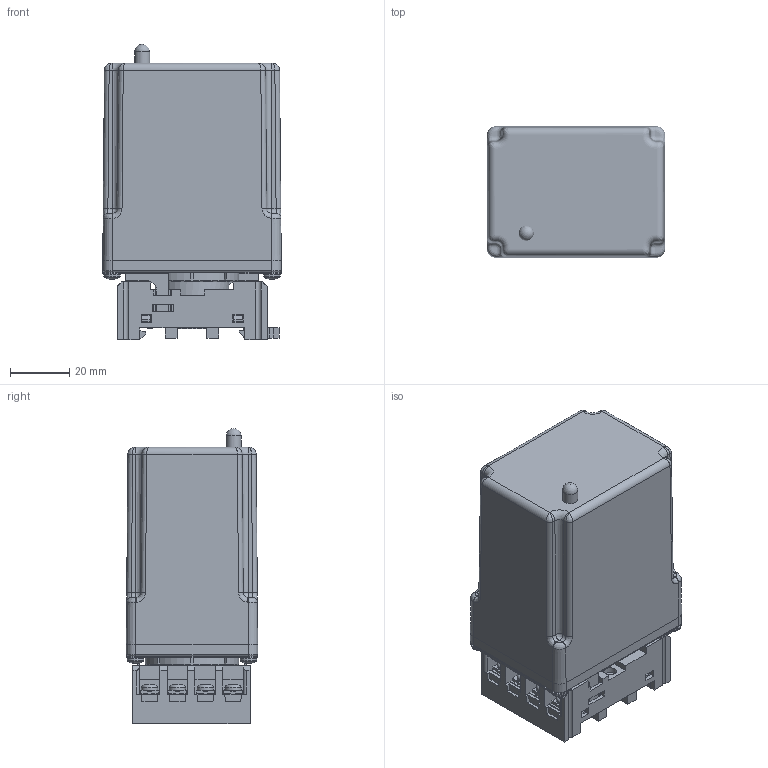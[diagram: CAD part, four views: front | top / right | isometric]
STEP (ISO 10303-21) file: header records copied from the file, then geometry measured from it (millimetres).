
FILE_DESCRIPTION(('FreeCAD Model'),'2;1');
FILE_NAME('Open CASCADE Shape Model','2023-06-09T11:02:03',(''),(''), 'Open CASCADE STEP processor 7.6','FreeCAD','Unknown');
FILE_SCHEMA(('AUTOMOTIVE_DESIGN { 1 0 10303 214 1 1 1 1 }'));
Products named in the file (1): Compound
Bounding box: 60.33 x 44.45 x 99.77 mm (x, y, z)
Surface area: 69944.3 mm2 (no closed solid volume)
Topology: 0 solids, 40 shells, 3378 faces, 8986 edges, 5587 vertices
Faces by surface type: plane 1614, cylinder 1040, bspline 344, sphere 137, torus 130, cone 73, revolution 40
Full cylindrical faces by diameter (mm): 0.254 x16, 1.257 x8, 1.714 x8, 1.905 x16, 2 x2, 2.362 x16, 2.464 x8, 2.5 x72, 2.8 x8, 3 x8, 3.175 x8, 4 x8, 4.191 x8, 4.2 x2, 5 x8, 5.08 x1, 5.498 x8, 5.5 x8, 7.925 x1, 10.9 x1, 15 x1, 24.9 x1
Entity records: 460583 total; most frequent: CARTESIAN_POINT 291479, DIRECTION 29272, LINE 17981, VECTOR 17981, ORIENTED_EDGE 17570, PCURVE 17570, DEFINITIONAL_REPRESENTATION 17570, EDGE_CURVE 8793
